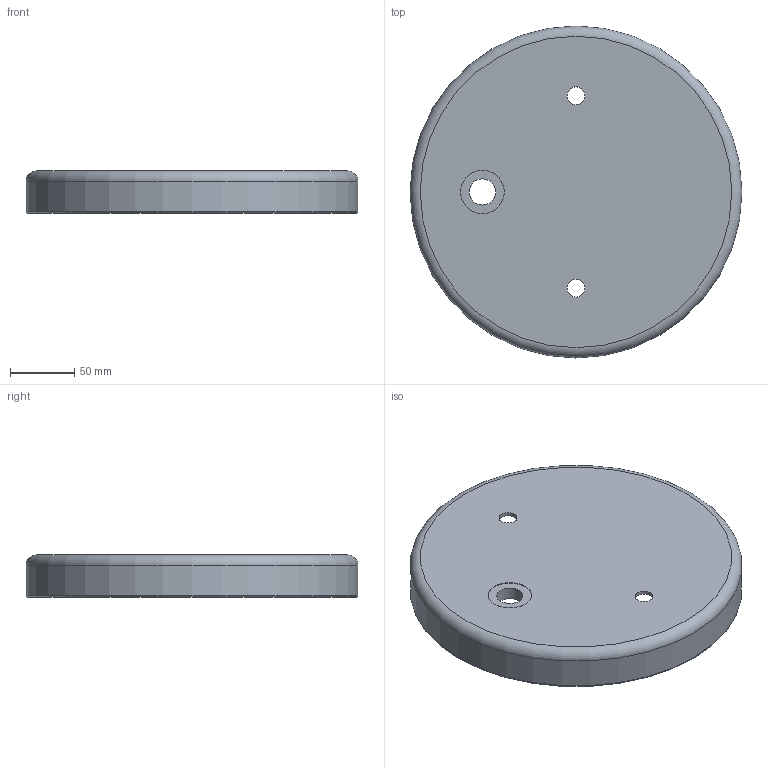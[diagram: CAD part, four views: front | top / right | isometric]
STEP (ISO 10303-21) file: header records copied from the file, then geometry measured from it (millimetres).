
FILE_DESCRIPTION(('Open CASCADE Model'),'2;1');
FILE_NAME('Open CASCADE Shape Model','2026-10-31T13:08:46',('Author'),( 'Open CASCADE'),'Open CASCADE STEP processor 7.9','Open CASCADE 7.9' ,'Unknown');
FILE_SCHEMA(('AUTOMOTIVE_DESIGN { 1 0 10303 214 1 1 1 1 }'));
Length unit declared in the file: millimetre
Products named in the file (1): Open CASCADE STEP translator 7.9 1
Bounding box: 259 x 259 x 33 mm (x, y, z)
Volume: 222399.2 mm3; surface area: 150731.9 mm2
Topology: 1 solids, 1 shells, 15 faces, 28 edges, 17 vertices
Faces by surface type: cylinder 7, torus 4, plane 4
Full cylindrical faces by diameter (mm): 14 x2, 20.5 x1, 26.5 x1, 34 x1, 253 x1, 259 x1
Entity records: 785 total; most frequent: CARTESIAN_POINT 155, DIRECTION 129, ORIENTED_EDGE 56, PCURVE 56, DEFINITIONAL_REPRESENTATION 56, LINE 49, VECTOR 49, AXIS2_PLACEMENT_3D 37
